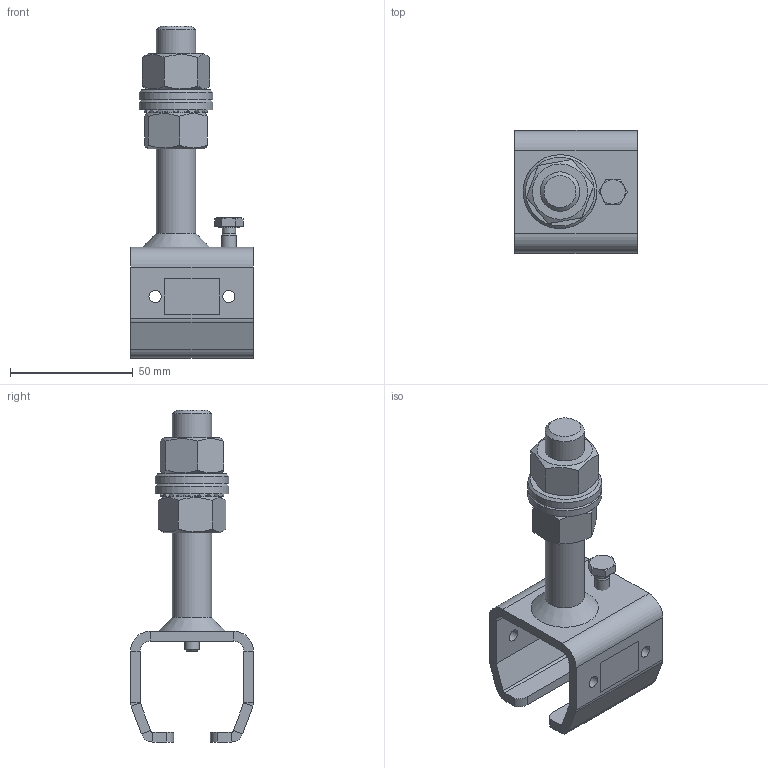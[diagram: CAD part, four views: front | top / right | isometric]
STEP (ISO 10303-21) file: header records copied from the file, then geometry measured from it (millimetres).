
FILE_DESCRIPTION(/* description */ ('Muffe H/S Nr.1'),/* implementation_level */ '2;1');
FILE_NAME(/* name */ 'Q:\sge-ma\Produktmanagement-STB\STB\Workspace\stp\010335510.stp',/* time_stamp */ '2015-06-01T10:53:15+02:00',/* author */ ('avschreier'),/* organization */ (''),/* preprocessor_version */ 'ST-DEVELOPER v15.6',/* originating_system */ 'Autodesk Inventor 2015',/* authorisation */ '');
FILE_SCHEMA (('CONFIG_CONTROL_DESIGN'));
Length unit declared in the file: millimetre
Products named in the file (8): 010335510_Schweißnähte; 000302234; 335140010; DIN_EN_ISO_4017-M6x16_en; DIN_6798-A_17_en; DIN_6916-17_en; DIN_EN_ISO_4032-M16_en; 010335510
Bounding box: 50 x 50 x 135 mm (x, y, z)
Volume: 62077.2 mm3; surface area: 31186.4 mm2
Topology: 9 solids, 9 shells, 252 faces, 628 edges, 397 vertices
Faces by surface type: plane 123, cylinder 106, cone 23
Full cylindrical faces by diameter (mm): 4.917 x3, 5 x3, 5.459 x1, 6 x1, 8.7 x1, 13.835 x2, 16 x2, 17 x3, 30 x2
Entity records: 7052 total; most frequent: DIRECTION 1258, CARTESIAN_POINT 1224, ORIENTED_EDGE 1116, EDGE_CURVE 558, AXIS2_PLACEMENT_3D 474, VERTEX_POINT 368, LINE 310, VECTOR 310
